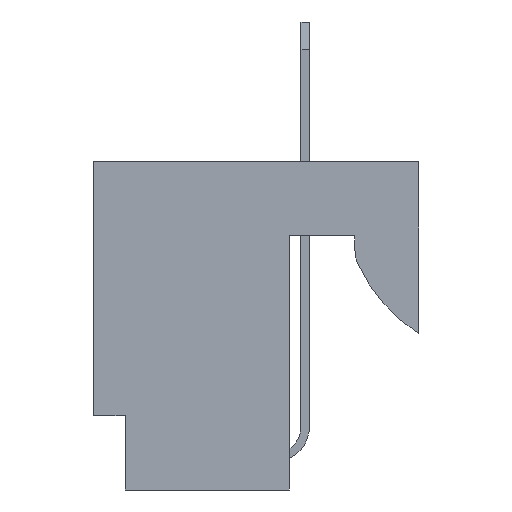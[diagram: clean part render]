
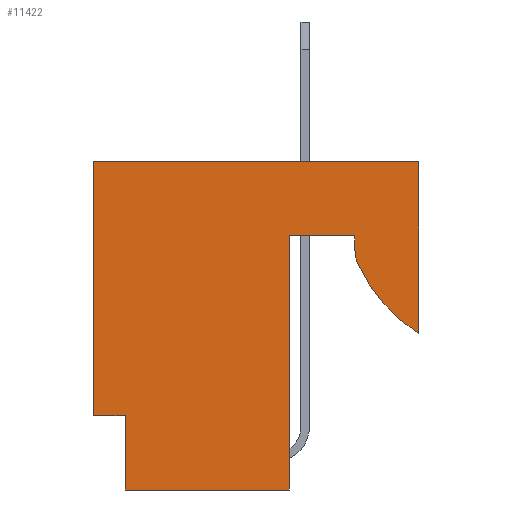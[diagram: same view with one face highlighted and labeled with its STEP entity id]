
A CAD part, left-side view. The second image highlights one B-rep face of the part: STEP entity #11422.
In plain terms, the highlighted planar face has unit normal (-1, 0, 0).
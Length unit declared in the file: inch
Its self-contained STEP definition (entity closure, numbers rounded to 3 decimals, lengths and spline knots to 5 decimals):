
#1=DIRECTION('',(0.,0.,-1.));
#2=VECTOR('',#1,0.16208);
#3=CARTESIAN_POINT('',(-0.648,0.,0.));
#4=LINE('',#3,#2);
#5=CARTESIAN_POINT('',(-0.648,-0.0797,-0.035));
#6=DIRECTION('',(1.,0.,0.));
#7=DIRECTION('',(0.,0.531,-0.847));
#8=AXIS2_PLACEMENT_3D('',#5,#6,#7);
#10=CARTESIAN_POINT('',(-0.648,0.03,-0.08365));
#11=DIRECTION('',(1.,0.,0.));
#12=DIRECTION('',(0.,0.914,-0.405));
#13=AXIS2_PLACEMENT_3D('',#10,#11,#12);
#15=DIRECTION('',(0.,0.,1.));
#16=VECTOR('',#15,0.01365);
#17=CARTESIAN_POINT('',(-0.648,0.06,-0.08365));
#18=LINE('',#17,#16);
#19=DIRECTION('',(0.,1.,0.));
#20=VECTOR('',#19,0.062);
#21=CARTESIAN_POINT('',(-0.648,0.06,-0.07));
#22=LINE('',#21,#20);
#23=DIRECTION('',(0.,0.,-1.));
#24=VECTOR('',#23,0.24);
#25=CARTESIAN_POINT('',(-0.648,0.122,-0.07));
#26=LINE('',#25,#24);
#27=DIRECTION('',(0.,1.,0.));
#28=VECTOR('',#27,0.155);
#29=CARTESIAN_POINT('',(-0.648,0.122,-0.31));
#30=LINE('',#29,#28);
#31=DIRECTION('',(0.,0.,1.));
#32=VECTOR('',#31,0.07);
#33=CARTESIAN_POINT('',(-0.648,0.277,-0.31));
#34=LINE('',#33,#32);
#35=DIRECTION('',(0.,1.,0.));
#36=VECTOR('',#35,0.03);
#37=CARTESIAN_POINT('',(-0.648,0.277,-0.24));
#38=LINE('',#37,#36);
#39=DIRECTION('',(0.,0.,1.));
#40=VECTOR('',#39,0.24);
#41=CARTESIAN_POINT('',(-0.648,0.307,-0.24));
#42=LINE('',#41,#40);
#43=DIRECTION('',(0.,-1.,0.));
#44=VECTOR('',#43,0.307);
#45=CARTESIAN_POINT('',(-0.648,0.307,0.));
#46=LINE('',#45,#44);
#8641=CARTESIAN_POINT('',(-0.648,0.,0.));
#8642=CARTESIAN_POINT('',(-0.648,0.,-0.16208));
#8643=VERTEX_POINT('',#8641);
#8644=VERTEX_POINT('',#8642);
#8645=CARTESIAN_POINT('',(-0.648,0.06,-0.07));
#8646=CARTESIAN_POINT('',(-0.648,0.122,-0.07));
#8647=VERTEX_POINT('',#8645);
#8648=VERTEX_POINT('',#8646);
#8649=CARTESIAN_POINT('',(-0.648,0.122,-0.31));
#8650=VERTEX_POINT('',#8649);
#8651=CARTESIAN_POINT('',(-0.648,0.277,-0.31));
#8652=VERTEX_POINT('',#8651);
#8653=CARTESIAN_POINT('',(-0.648,0.277,-0.24));
#8654=VERTEX_POINT('',#8653);
#8655=CARTESIAN_POINT('',(-0.648,0.307,-0.24));
#8656=VERTEX_POINT('',#8655);
#8657=CARTESIAN_POINT('',(-0.648,0.307,0.));
#8658=VERTEX_POINT('',#8657);
#8829=CARTESIAN_POINT('',(-0.648,0.05742,-0.09581));
#8830=VERTEX_POINT('',#8829);
#8831=CARTESIAN_POINT('',(-0.648,0.06,-0.08365));
#8832=VERTEX_POINT('',#8831);
#11393=CARTESIAN_POINT('',(-0.648,0.,0.));
#11394=DIRECTION('',(1.,0.,0.));
#11395=DIRECTION('',(0.,0.,-1.));
#11396=AXIS2_PLACEMENT_3D('',#11393,#11394,#11395);
#11397=PLANE('',#11396);
#11399=ORIENTED_EDGE('',*,*,#11398,.T.);
#11401=ORIENTED_EDGE('',*,*,#11400,.T.);
#11403=ORIENTED_EDGE('',*,*,#11402,.T.);
#11405=ORIENTED_EDGE('',*,*,#11404,.T.);
#11407=ORIENTED_EDGE('',*,*,#11406,.T.);
#11409=ORIENTED_EDGE('',*,*,#11408,.T.);
#11411=ORIENTED_EDGE('',*,*,#11410,.T.);
#11413=ORIENTED_EDGE('',*,*,#11412,.T.);
#11415=ORIENTED_EDGE('',*,*,#11414,.T.);
#11417=ORIENTED_EDGE('',*,*,#11416,.T.);
#11419=ORIENTED_EDGE('',*,*,#11418,.T.);
#11420=EDGE_LOOP('',(#11399,#11401,#11403,#11405,#11407,#11409,#11411,#11413,
#11415,#11417,#11419));
#11421=FACE_OUTER_BOUND('',#11420,.F.);
#11422=ADVANCED_FACE('',(#11421),#11397,.F.);
#9=CIRCLE('',#8,0.15);
#14=CIRCLE('',#13,0.03);
#11398=EDGE_CURVE('',#8643,#8644,#4,.T.);
#11400=EDGE_CURVE('',#8644,#8830,#9,.T.);
#11402=EDGE_CURVE('',#8830,#8832,#14,.T.);
#11404=EDGE_CURVE('',#8832,#8647,#18,.T.);
#11406=EDGE_CURVE('',#8647,#8648,#22,.T.);
#11408=EDGE_CURVE('',#8648,#8650,#26,.T.);
#11410=EDGE_CURVE('',#8650,#8652,#30,.T.);
#11412=EDGE_CURVE('',#8652,#8654,#34,.T.);
#11414=EDGE_CURVE('',#8654,#8656,#38,.T.);
#11416=EDGE_CURVE('',#8656,#8658,#42,.T.);
#11418=EDGE_CURVE('',#8658,#8643,#46,.T.);
